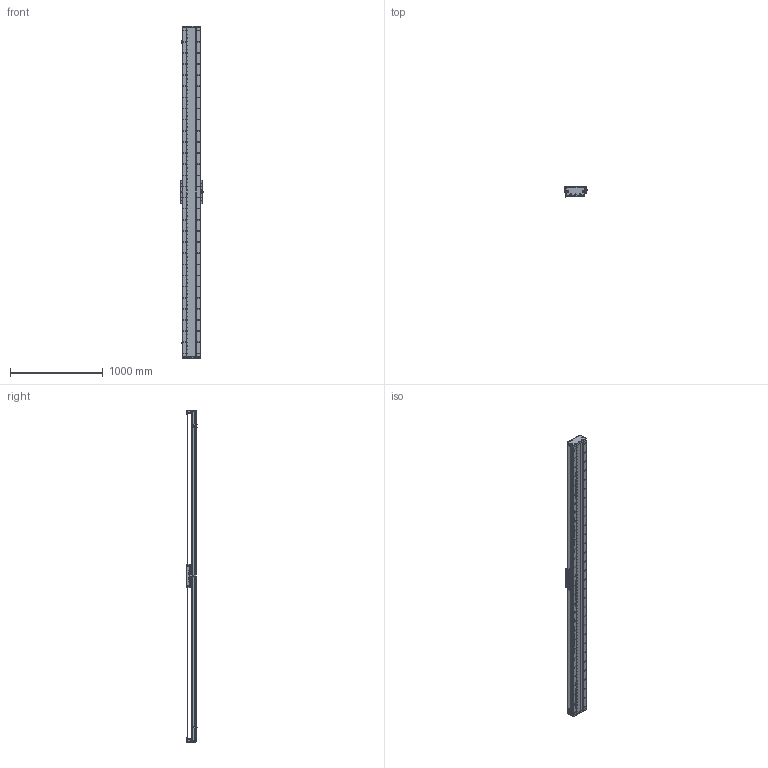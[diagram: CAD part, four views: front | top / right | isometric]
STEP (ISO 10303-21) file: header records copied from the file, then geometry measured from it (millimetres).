
FILE_DESCRIPTION (( 'STEP AP203' ), '1' );
FILE_NAME ('DA-C195-C3-T3240-C010-0.2 眻盄萇儂.STEP', '2025-08-15T01:27:11', ( '' ), ( '' ), 'SwSTEP 2.0', 'SolidWorks 2019', '' );
FILE_SCHEMA (( 'CONFIG_CONTROL_DESIGN' ));
Length unit declared in the file: millimetre
Products named in the file (15): PM-T45ㄗ侂狟ㄘ; DA-C195-GD-DB-H-00 傷啣; 葩璃 DA95-GT-T-00; DA165-GYP-00 光电感应片(默认); DA195詩湍菜輸; MS200 棠掑喜S315-T240; DA-C195-C3-T3240-C010-0.2 眻盄萇儂; DA195詩湍裔啣; IU-CU195-L 菁釱絳寢; DA95-HXJ-00 遣喳砎蝶; CU195-C3賑輸-俋楷; DA195詩湍嶺輸; LMT黍杅芛; DA195詩湍郪璃; IU-CU195-L-00 菁釱(L3540)
Assembly tree (29 placements, depth 3):
  DA-C195-C3-T3240-C010-0.2 眻盄萇儂
    DA195詩湍郪璃
      DA195詩湍菜輸  x2
      DA195詩湍裔啣
      DA195詩湍嶺輸  x2
      DA95-HXJ-00 遣喳砎蝶  x8
      DA-C195-GD-DB-H-00 傷啣  x2
    IU-CU195-L 菁釱絳寢
      IU-CU195-L-00 菁釱(L3540)
      葩璃 DA95-GT-T-00  x4
    LMT黍杅芛
    MS200 棠掑喜S315-T240
    PM-T45ㄗ侂狟ㄘ  x3
    DA165-GYP-00 光电感应片(默认)
    CU195-C3賑輸-俋楷
Bounding box: 248 x 115.45 x 3580 mm (x, y, z)
Volume: 20258919 mm3; surface area: 6021744.2 mm2
Topology: 86 solids, 118 shells, 4736 faces, 13743 edges, 8721 vertices
Faces by surface type: cylinder 2754, plane 1380, cone 514, torus 52, sphere 36
Entity records: 160493 total; most frequent: CARTESIAN_POINT 46108, ORIENTED_EDGE 24402, DIRECTION 22726, EDGE_CURVE 12201, AXIS2_PLACEMENT_3D 8557, VERTEX_POINT 7923, LINE 5612, VECTOR 5612
